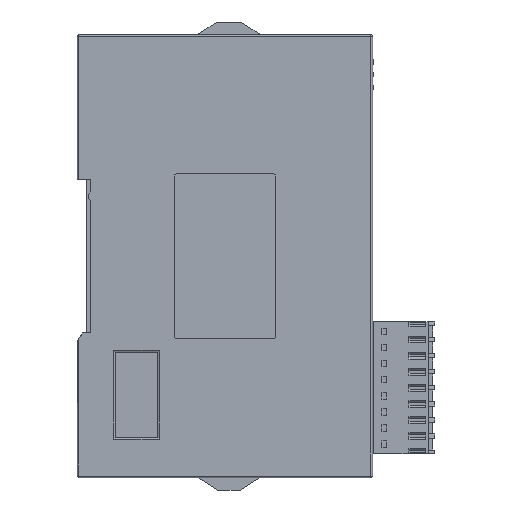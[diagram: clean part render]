
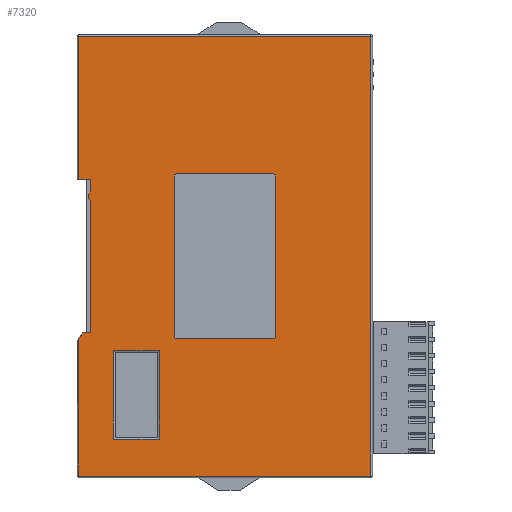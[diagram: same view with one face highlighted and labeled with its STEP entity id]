
A CAD part, left-side view. The second image highlights one B-rep face of the part: STEP entity #7320.
In plain terms, the highlighted planar face has unit normal (-1, 0, 0).
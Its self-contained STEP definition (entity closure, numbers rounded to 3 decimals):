
#7320=ADVANCED_FACE('',(#19830,#19832,#19834),#19836,.T.);
#19830=FACE_BOUND('',#19831,.T.);
#19831=EDGE_LOOP('',(#28723,#28724,#28725,#28726,#28727,#28728,#28729,#28730,#28731,
#28732,#28733));
#19832=FACE_BOUND('',#19833,.T.);
#19833=EDGE_LOOP('',(#28734,#28735,#28736,#28737,#28738,#28739,#28740,#28741));
#19834=FACE_BOUND('',#19835,.T.);
#19835=EDGE_LOOP('',(#28742,#28743,#28744,#28745));
#19836=PLANE('',#19837);
#19837=AXIS2_PLACEMENT_3D('',#19838,#19839,#19840);
#19838=CARTESIAN_POINT('',(-345.903,-44.348,173.566));
#19839=DIRECTION('',(-1.,0.,0.));
#19840=DIRECTION('',(0.,0.,1.));
#28723=ORIENTED_EDGE('',*,*,#35120,.F.);
#28724=ORIENTED_EDGE('',*,*,#35121,.F.);
#28725=ORIENTED_EDGE('',*,*,#35122,.T.);
#28726=ORIENTED_EDGE('',*,*,#35123,.T.);
#28727=ORIENTED_EDGE('',*,*,#35124,.T.);
#28728=ORIENTED_EDGE('',*,*,#35125,.T.);
#28729=ORIENTED_EDGE('',*,*,#35126,.T.);
#28730=ORIENTED_EDGE('',*,*,#35127,.F.);
#28731=ORIENTED_EDGE('',*,*,#35128,.F.);
#28732=ORIENTED_EDGE('',*,*,#35129,.F.);
#28733=ORIENTED_EDGE('',*,*,#34485,.F.);
#28734=ORIENTED_EDGE('',*,*,#35130,.F.);
#28735=ORIENTED_EDGE('',*,*,#35131,.F.);
#28736=ORIENTED_EDGE('',*,*,#35132,.F.);
#28737=ORIENTED_EDGE('',*,*,#35133,.F.);
#28738=ORIENTED_EDGE('',*,*,#35134,.F.);
#28739=ORIENTED_EDGE('',*,*,#35135,.F.);
#28740=ORIENTED_EDGE('',*,*,#35136,.F.);
#28741=ORIENTED_EDGE('',*,*,#35137,.F.);
#28742=ORIENTED_EDGE('',*,*,#35138,.F.);
#28743=ORIENTED_EDGE('',*,*,#35139,.F.);
#28744=ORIENTED_EDGE('',*,*,#35140,.F.);
#28745=ORIENTED_EDGE('',*,*,#35141,.F.);
#34485=EDGE_CURVE('',#41336,#41334,#41338,.T.);
#35120=EDGE_CURVE('',#42359,#41336,#42360,.T.);
#35121=EDGE_CURVE('',#42361,#42359,#42362,.T.);
#35122=EDGE_CURVE('',#42361,#42363,#42364,.T.);
#35123=EDGE_CURVE('',#42363,#42365,#42366,.T.);
#35124=EDGE_CURVE('',#42365,#42367,#42368,.T.);
#35125=EDGE_CURVE('',#42367,#42369,#42370,.T.);
#35126=EDGE_CURVE('',#42369,#42371,#42372,.T.);
#35127=EDGE_CURVE('',#42373,#42371,#42374,.T.);
#35128=EDGE_CURVE('',#42375,#42373,#42376,.T.);
#35129=EDGE_CURVE('',#41334,#42375,#42377,.T.);
#35130=EDGE_CURVE('',#42378,#42379,#42380,.T.);
#35131=EDGE_CURVE('',#42381,#42378,#42382,.T.);
#35132=EDGE_CURVE('',#42383,#42381,#42384,.T.);
#35133=EDGE_CURVE('',#42385,#42383,#42386,.T.);
#35134=EDGE_CURVE('',#42387,#42385,#42388,.T.);
#35135=EDGE_CURVE('',#42389,#42387,#42390,.T.);
#35136=EDGE_CURVE('',#42391,#42389,#42392,.T.);
#35137=EDGE_CURVE('',#42379,#42391,#42393,.T.);
#35138=EDGE_CURVE('',#42394,#42395,#42396,.T.);
#35139=EDGE_CURVE('',#42397,#42394,#42398,.T.);
#35140=EDGE_CURVE('',#42399,#42397,#42400,.T.);
#35141=EDGE_CURVE('',#42395,#42399,#42401,.T.);
#41334=VERTEX_POINT('',#52477);
#41336=VERTEX_POINT('',#52482);
#41338=LINE('',#52487,#52488);
#42359=VERTEX_POINT('',#56718);
#42360=LINE('',#56719,#56720);
#42361=VERTEX_POINT('',#56722);
#42362=LINE('',#56723,#56724);
#42363=VERTEX_POINT('',#56726);
#42364=LINE('',#56727,#56728);
#42365=VERTEX_POINT('',#56730);
#42366=LINE('',#56731,#56732);
#42367=VERTEX_POINT('',#56734);
#42368=CIRCLE('',#56735,2.);
#42369=VERTEX_POINT('',#56739);
#42370=LINE('',#56740,#56741);
#42371=VERTEX_POINT('',#56743);
#42372=LINE('',#56744,#56745);
#42373=VERTEX_POINT('',#56747);
#42374=LINE('',#56748,#56749);
#42375=VERTEX_POINT('',#56751);
#42376=LINE('',#56752,#56753);
#42377=LINE('',#56755,#56756);
#42378=VERTEX_POINT('',#56758);
#42379=VERTEX_POINT('',#56759);
#42380=LINE('',#56760,#56761);
#42381=VERTEX_POINT('',#56763);
#42382=CIRCLE('',#56764,0.5);
#42383=VERTEX_POINT('',#56768);
#42384=LINE('',#56769,#56770);
#42385=VERTEX_POINT('',#56772);
#42386=CIRCLE('',#56773,0.5);
#42387=VERTEX_POINT('',#56777);
#42388=LINE('',#56778,#56779);
#42389=VERTEX_POINT('',#56781);
#42390=CIRCLE('',#56782,0.5);
#42391=VERTEX_POINT('',#56786);
#42392=LINE('',#56787,#56788);
#42393=CIRCLE('',#56790,0.5);
#42394=VERTEX_POINT('',#56794);
#42395=VERTEX_POINT('',#56795);
#42396=LINE('',#56796,#56797);
#42397=VERTEX_POINT('',#56799);
#42398=LINE('',#56800,#56801);
#42399=VERTEX_POINT('',#56803);
#42400=LINE('',#56804,#56805);
#42401=LINE('',#56807,#56808);
#52477=CARTESIAN_POINT('',(-345.903,-120.48,183.998));
#52482=CARTESIAN_POINT('',(-345.903,-120.48,288.198));
#52487=CARTESIAN_POINT('',(-345.903,-120.48,288.198));
#52488=VECTOR('',#52489,1.);
#52489=DIRECTION('',(0.,0.,-1.));
#56718=CARTESIAN_POINT('',(-345.903,-51.28,288.198));
#56719=CARTESIAN_POINT('',(-345.903,-51.28,288.198));
#56720=VECTOR('',#56721,1.);
#56721=DIRECTION('',(0.,-1.,0.));
#56722=CARTESIAN_POINT('',(-345.903,-51.28,254.298));
#56723=CARTESIAN_POINT('',(-345.903,-51.28,254.298));
#56724=VECTOR('',#56725,1.);
#56725=DIRECTION('',(0.,0.,1.));
#56726=CARTESIAN_POINT('',(-345.903,-54.08,254.298));
#56727=CARTESIAN_POINT('',(-345.903,-51.28,254.298));
#56728=VECTOR('',#56729,1.);
#56729=DIRECTION('',(0.,-1.,0.));
#56730=CARTESIAN_POINT('',(-345.903,-54.08,251.62));
#56731=CARTESIAN_POINT('',(-345.903,-54.08,254.298));
#56732=VECTOR('',#56733,1.);
#56733=DIRECTION('',(0.,0.,-1.));
#56734=CARTESIAN_POINT('',(-345.903,-54.08,248.975));
#56735=AXIS2_PLACEMENT_3D('',#56736,#56737,#56738);
#56736=CARTESIAN_POINT('',(-345.903,-55.58,250.298));
#56737=DIRECTION('',(-1.,0.,0.));
#56738=DIRECTION('',(0.,0.75,0.661));
#56739=CARTESIAN_POINT('',(-345.903,-54.08,217.898));
#56740=CARTESIAN_POINT('',(-345.903,-54.08,248.975));
#56741=VECTOR('',#56742,1.);
#56742=DIRECTION('',(0.,0.,-1.));
#56743=CARTESIAN_POINT('',(-345.903,-52.08,217.898));
#56744=CARTESIAN_POINT('',(-345.903,-54.08,217.898));
#56745=VECTOR('',#56746,1.);
#56746=DIRECTION('',(0.,1.,0.));
#56747=CARTESIAN_POINT('',(-345.903,-51.28,216.564));
#56748=CARTESIAN_POINT('',(-345.903,-51.28,216.564));
#56749=VECTOR('',#56750,1.);
#56750=DIRECTION('',(0.,-0.515,0.857));
#56751=CARTESIAN_POINT('',(-345.903,-51.28,183.998));
#56752=CARTESIAN_POINT('',(-345.903,-51.28,183.998));
#56753=VECTOR('',#56754,1.);
#56754=DIRECTION('',(0.,0.,1.));
#56755=CARTESIAN_POINT('',(-345.903,-120.48,183.998));
#56756=VECTOR('',#56757,1.);
#56757=DIRECTION('',(0.,1.,0.));
#56758=CARTESIAN_POINT('',(-345.903,-97.38,255.598));
#56759=CARTESIAN_POINT('',(-345.903,-74.38,255.598));
#56760=CARTESIAN_POINT('',(-345.903,-97.38,255.598));
#56761=VECTOR('',#56762,1.);
#56762=DIRECTION('',(0.,1.,0.));
#56763=CARTESIAN_POINT('',(-345.903,-97.88,255.098));
#56764=AXIS2_PLACEMENT_3D('',#56765,#56766,#56767);
#56765=CARTESIAN_POINT('',(-345.903,-97.38,255.098));
#56766=DIRECTION('',(-1.,0.,0.));
#56767=DIRECTION('',(0.,-1.,0.));
#56768=CARTESIAN_POINT('',(-345.903,-97.88,217.098));
#56769=CARTESIAN_POINT('',(-345.903,-97.88,217.098));
#56770=VECTOR('',#56771,1.);
#56771=DIRECTION('',(0.,0.,1.));
#56772=CARTESIAN_POINT('',(-345.903,-97.38,216.598));
#56773=AXIS2_PLACEMENT_3D('',#56774,#56775,#56776);
#56774=CARTESIAN_POINT('',(-345.903,-97.38,217.098));
#56775=DIRECTION('',(-1.,0.,0.));
#56776=DIRECTION('',(0.,0.,-1.));
#56777=CARTESIAN_POINT('',(-345.903,-74.38,216.598));
#56778=CARTESIAN_POINT('',(-345.903,-74.38,216.598));
#56779=VECTOR('',#56780,1.);
#56780=DIRECTION('',(0.,-1.,0.));
#56781=CARTESIAN_POINT('',(-345.903,-73.88,217.098));
#56782=AXIS2_PLACEMENT_3D('',#56783,#56784,#56785);
#56783=CARTESIAN_POINT('',(-345.903,-74.38,217.098));
#56784=DIRECTION('',(-1.,0.,0.));
#56785=DIRECTION('',(0.,1.,0.));
#56786=CARTESIAN_POINT('',(-345.903,-73.88,255.098));
#56787=CARTESIAN_POINT('',(-345.903,-73.88,255.098));
#56788=VECTOR('',#56789,1.);
#56789=DIRECTION('',(0.,0.,-1.));
#56790=AXIS2_PLACEMENT_3D('',#56791,#56792,#56793);
#56791=CARTESIAN_POINT('',(-345.903,-74.38,255.098));
#56792=DIRECTION('',(-1.,0.,0.));
#56793=DIRECTION('',(0.,0.,1.));
#56794=CARTESIAN_POINT('',(-345.903,-70.34,192.748));
#56795=CARTESIAN_POINT('',(-345.903,-70.34,213.748));
#56796=CARTESIAN_POINT('',(-345.903,-70.34,192.748));
#56797=VECTOR('',#56798,1.);
#56798=DIRECTION('',(0.,0.,1.));
#56799=CARTESIAN_POINT('',(-345.903,-59.45,192.748));
#56800=CARTESIAN_POINT('',(-345.903,-59.45,192.748));
#56801=VECTOR('',#56802,1.);
#56802=DIRECTION('',(0.,-1.,0.));
#56803=CARTESIAN_POINT('',(-345.903,-59.45,213.748));
#56804=CARTESIAN_POINT('',(-345.903,-59.45,213.748));
#56805=VECTOR('',#56806,1.);
#56806=DIRECTION('',(0.,0.,-1.));
#56807=CARTESIAN_POINT('',(-345.903,-70.34,213.748));
#56808=VECTOR('',#56809,1.);
#56809=DIRECTION('',(0.,1.,0.));
